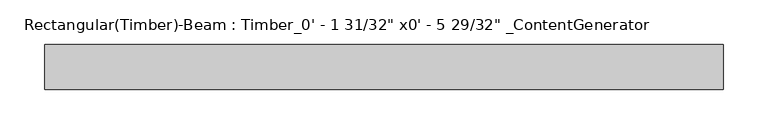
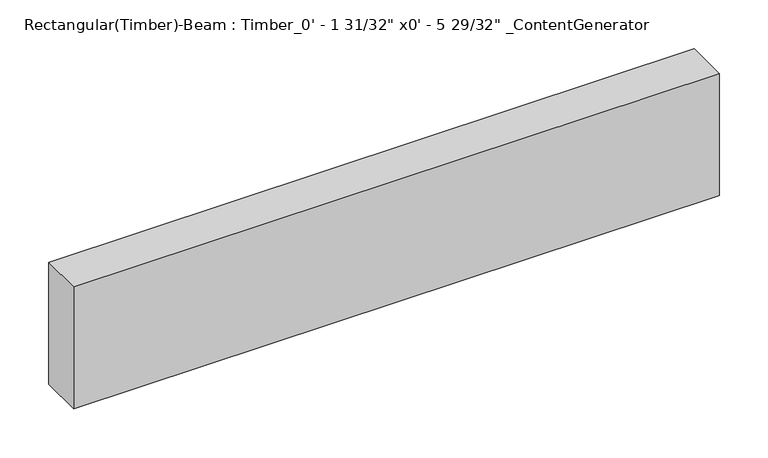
"""IFC4 building model written with IfcOpenShell, lengths in millimetres: beam geometry."""

from ifc_helpers import new_model, si_unit, frame, origin, place, context, project, spatial, polyline, outline, extrude, source, transform, mapped, element, save


def beam_94f9b516(model_context):
    return source(origin(), model_context, "Body", "SweptSolid", [
        extrude(outline(polyline([(381.0, 25.4), (381.0, -25.4), (-381.0, -25.4), (-381.0, 25.4), (381.0, 25.4)])), frame((0.0, 0.0, -76.2), z_axis=(0.0, 0.0, 1.0), x_axis=(1.0, 0.0, 0.0)), (0.0, 0.0, 1.0), 152.4),
    ])


if __name__ == "__main__":
    model = new_model("IFC4")
    model_context = context("Model", 3, world=origin())
    ifc_project = project(units=[si_unit("LENGTHUNIT", "METRE", prefix="MILLI")], contexts=[model_context])
    site = spatial("IfcSite", under=ifc_project)
    building = spatial("IfcBuilding", under=site)
    placement = place(None, origin())
    beam_shape = beam_94f9b516(model_context)
    element("IfcBeam", 1, ObjectType="Rectangular(Timber)-Beam : Timber_0' - 1 31/32\" x0' - 5 29/32\" _ContentGenerator", at=placement, inside=building, context=model_context, shape_type="MappedRepresentation", body=[
        mapped(beam_shape, transform((0.0, 0.0, 0.0), x_axis=(1.0, 0.0, 0.0), y_axis=(0.0, 1.0, 0.0), z_axis=(0.0, 0.0, 1.0))),
    ])
    save(model, "model.ifc")
